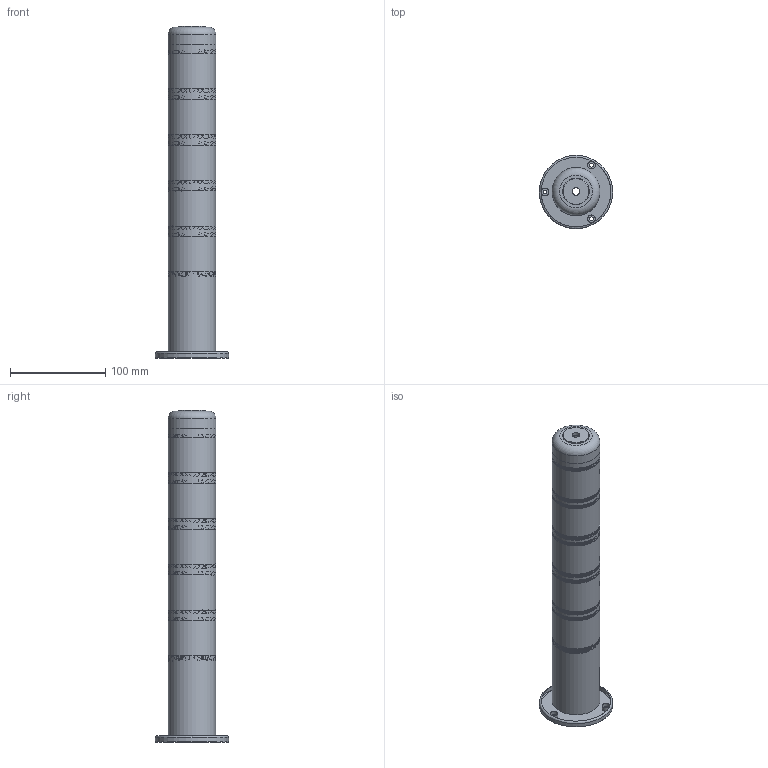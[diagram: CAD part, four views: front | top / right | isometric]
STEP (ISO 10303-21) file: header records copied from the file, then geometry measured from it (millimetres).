
FILE_DESCRIPTION(/* description */ (''),/* implementation_level */ '2;1');
FILE_NAME(/* name */ 'OLE1-501 带蜂鸣.stp',/* time_stamp */ '2022-12-13T18:17:38+08:00',/* author */ (''),/* organization */ (''),/* preprocessor_version */ 'ST-DEVELOPER v16.7',/* originating_system */ 'SIEMENS PLM Software NX 12.0',/* authorisation */ '');
FILE_SCHEMA (('AUTOMOTIVE_DESIGN { 1 0 10303 214 3 1 1 1 }'));
Products named in the file (1): Admi15EC76A1t4qx
Bounding box: 77 x 77 x 348.5 mm (x, y, z)
Volume: 184347.9 mm3; surface area: 174677.8 mm2
Topology: 14 solids, 15 shells, 2509 faces, 6037 edges, 4026 vertices
Faces by surface type: plane 2320, cylinder 100, bspline 72, cone 14, torus 3
Full cylindrical faces by diameter (mm): 4 x3, 8 x4, 18 x1, 21.5 x1, 28 x1, 32 x5, 38 x1, 42 x1, 44.2 x5, 45 x1, 45.5 x8, 46.3 x5, 47 x1, 50 x6, 50.3 x6, 77 x1
Entity records: 100150 total; most frequent: CARTESIAN_POINT 44466, ORIENTED_EDGE 11794, DIRECTION 9727, EDGE_CURVE 5897, LINE 4557, VECTOR 4557, VERTEX_POINT 3960, EDGE_LOOP 3059
